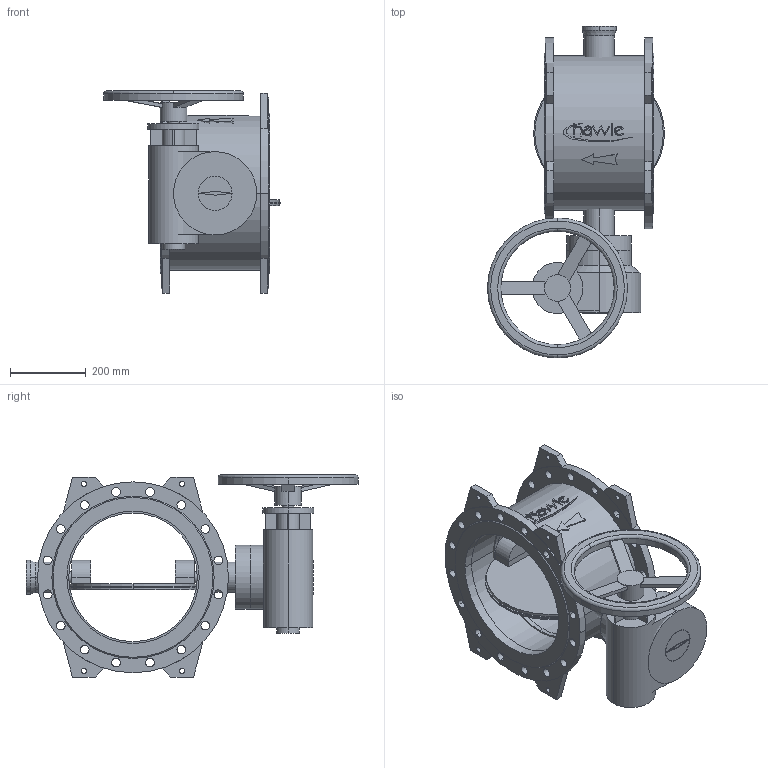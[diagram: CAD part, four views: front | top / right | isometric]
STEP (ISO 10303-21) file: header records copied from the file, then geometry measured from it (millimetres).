
FILE_DESCRIPTION(('STEP AP214'),'1');
FILE_NAME('S:/EK/USER/CAT6/3DHomepage_27-04-2012/neu_08-01-2013/9881K/9881K_PN10_DN350_7800.STP','2013-02-26T15:35:18',(' '),(' '),'Spatial InterOp 3D',' ',' ');
FILE_SCHEMA(('automotive_design'));
Length unit declared in the file: millimetre
Products named in the file (49): 3D-Objekt
Bounding box: 468 x 878 x 535 mm (x, y, z)
Volume: 30354803.7 mm3; surface area: 2628455.6 mm2
Topology: 49 solids, 49 shells, 413 faces, 938 edges, 626 vertices
Faces by surface type: plane 214, cylinder 187, cone 8, torus 4
Entity records: 16377 total; most frequent: DIRECTION 2282, CARTESIAN_POINT 2026, ORIENTED_EDGE 1876, EDGE_CURVE 938, AXIS2_PLACEMENT_3D 882, VERTEX_POINT 626, LINE 518, VECTOR 518
